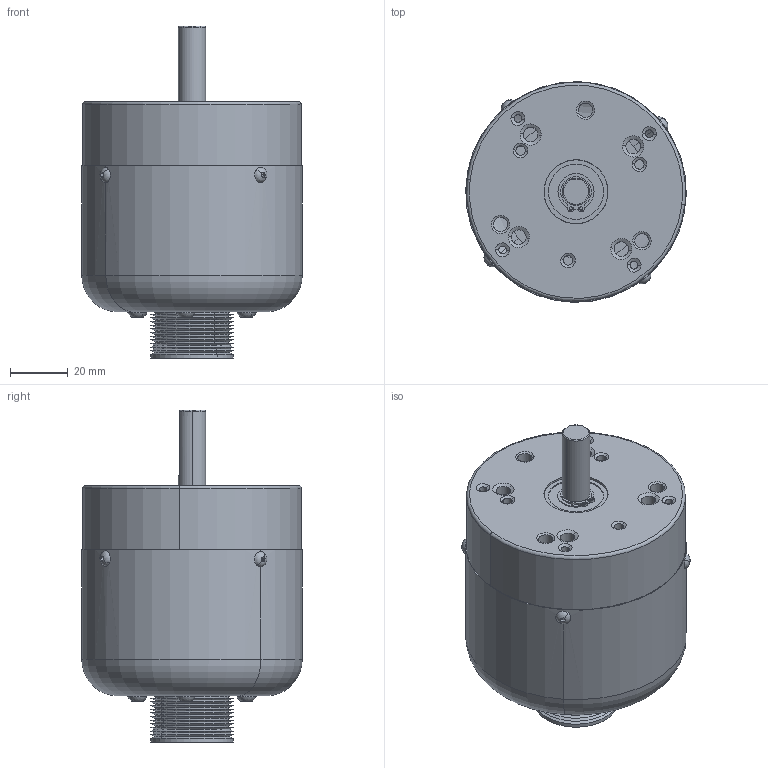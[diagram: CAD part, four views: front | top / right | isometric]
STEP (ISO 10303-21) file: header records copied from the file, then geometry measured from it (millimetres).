
FILE_DESCRIPTION (( 'STEP AP214' ), '1' );
FILE_NAME ('Nxxxx Encoder Assembly.STEP', '2019-03-05T22:46:41', ( '' ), ( '' ), 'SwSTEP 2.0', 'SolidWorks 2019', '' );
FILE_SCHEMA (( 'AUTOMOTIVE_DESIGN' ));
Length unit declared in the file: inch
Products named in the file (1): Nxxxx Encoder Assembly
Bounding box: 76.69 x 76.69 x 115.44 mm (x, y, z)
Surface area: 36082.7 mm2 (no closed solid volume)
Topology: 0 solids, 36 shells, 284 faces, 836 edges, 551 vertices
Faces by surface type: cylinder 83, plane 80, cone 70, sphere 28, torus 23
Entity records: 13821 total; most frequent: CARTESIAN_POINT 2688, DIRECTION 1682, ORIENTED_EDGE 1331, EDGE_CURVE 796, AXIS2_PLACEMENT_3D 679, VERTEX_POINT 531, CIRCLE 394, EDGE_LOOP 334
